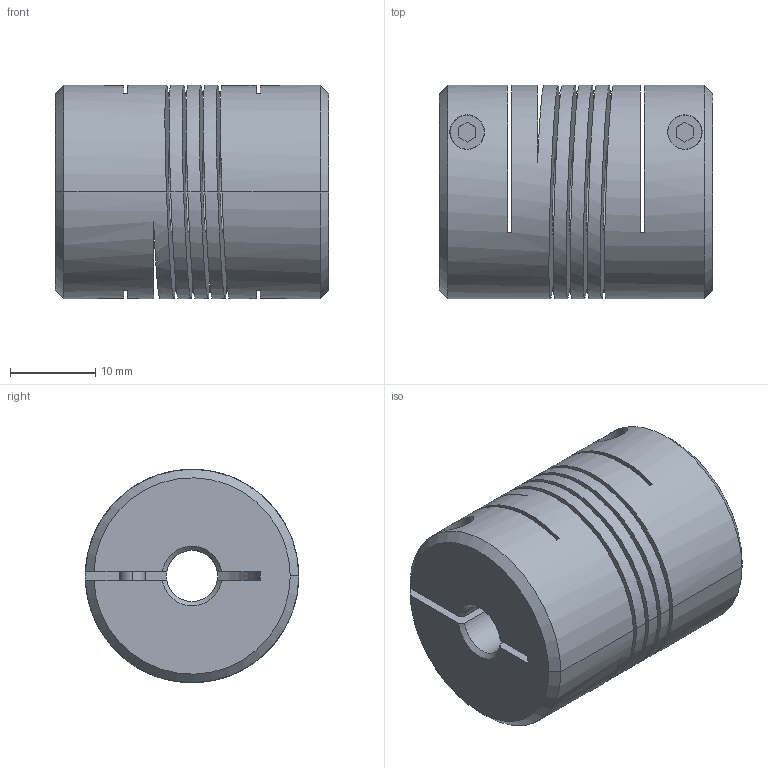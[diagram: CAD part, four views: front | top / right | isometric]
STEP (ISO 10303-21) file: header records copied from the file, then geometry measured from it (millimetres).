
FILE_DESCRIPTION( ( '' ), '1' );
FILE_NAME( '//partserver001.servicenet/client_exchange/iodir/jobs/output/wkb18291208_no7/STEP/e60066_2_03.stp', '2009-08-27T13:42:00', ( '' ), ( '' ), ' ', ' ', ' ' );
FILE_SCHEMA( ( 'CONFIG_CONTROL_DESIGN' ) );
Length unit declared in the file: millimetre
Products named in the file (3): 1; 2; 3
Bounding box: 32 x 25 x 25 mm (x, y, z)
Volume: 12016 mm3; surface area: 9901.4 mm2
Topology: 3 solids, 3 shells, 110 faces, 312 edges, 209 vertices
Faces by surface type: plane 56, cylinder 42, cone 12
Entity records: 4003 total; most frequent: CARTESIAN_POINT 878, DIRECTION 653, ORIENTED_EDGE 624, EDGE_CURVE 312, AXIS2_PLACEMENT_3D 252, VERTEX_POINT 209, LINE 149, VECTOR 149
